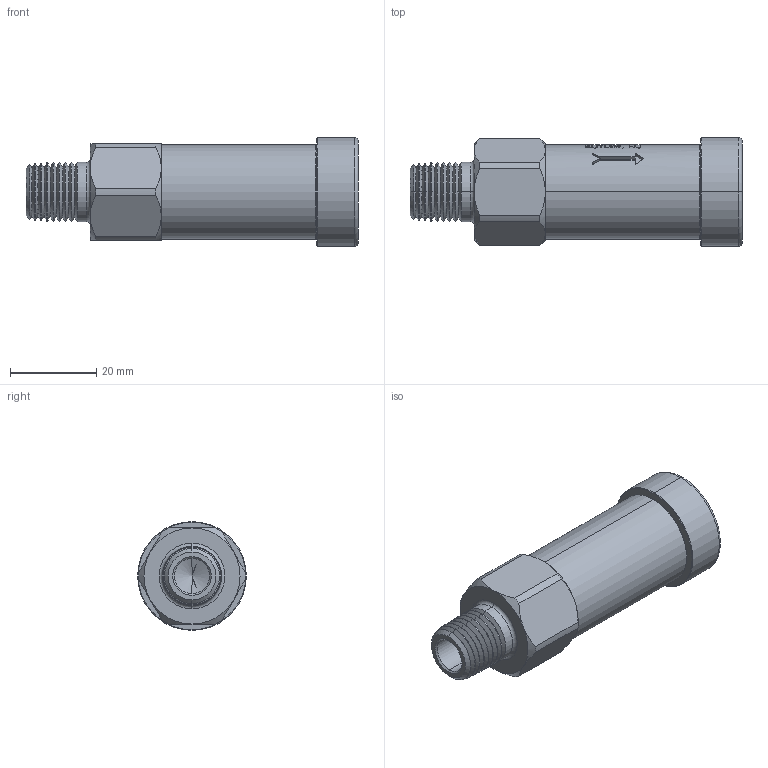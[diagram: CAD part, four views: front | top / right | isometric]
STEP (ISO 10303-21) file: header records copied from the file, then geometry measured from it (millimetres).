
FILE_DESCRIPTION (( 'STEP AP203' ), '1' );
FILE_NAME ('IRV4-4.STEP', '2020-08-13T13:23:36', ( '' ), ( '' ), 'SwSTEP 2.0', 'SolidWorks 2020', '' );
FILE_SCHEMA (( 'CONFIG_CONTROL_DESIGN' ));
Length unit declared in the file: inch
Products named in the file (2): IRV4-4; Part1^IRV4-4
Assembly tree (1 placements, depth 2):
  IRV4-4
    Part1^IRV4-4
Bounding box: 76.82 x 25.15 x 25.15 mm (x, y, z)
Volume: 25671 mm3; surface area: 7081.1 mm2
Topology: 1 solids, 1 shells, 341 faces, 846 edges, 533 vertices
Faces by surface type: plane 142, cone 82, bspline 70, cylinder 43, torus 4
Entity records: 14881 total; most frequent: CARTESIAN_POINT 7125, ORIENTED_EDGE 1688, DIRECTION 1378, EDGE_CURVE 844, VERTEX_POINT 533, AXIS2_PLACEMENT_3D 521, EDGE_LOOP 369, FACE_OUTER_BOUND 341
